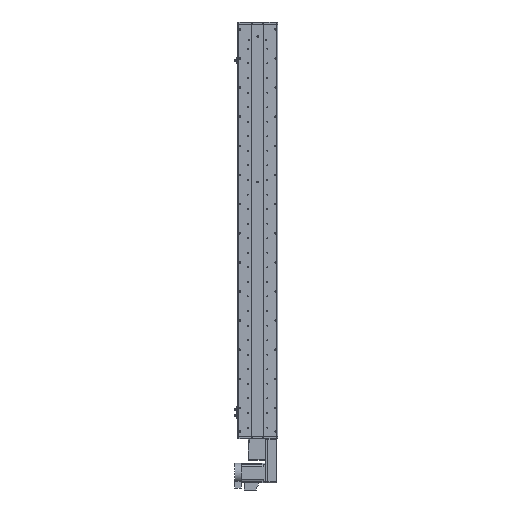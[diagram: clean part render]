
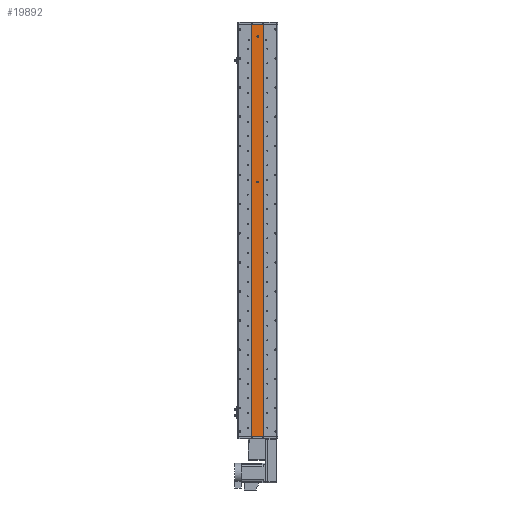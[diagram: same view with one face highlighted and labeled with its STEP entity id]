
A CAD part, front view. The second image highlights one B-rep face of the part: STEP entity #19892.
In plain terms, the highlighted planar face has unit normal (0, -1, 0).
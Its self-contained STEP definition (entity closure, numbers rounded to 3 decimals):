
#1510 = AXIS2_PLACEMENT_3D ( 'NONE', #61843, #30208, #67170 ) ;
#3039 = CARTESIAN_POINT ( 'NONE',  ( 25., 1., 848.5 ) ) ;
#3274 = DIRECTION ( 'NONE',  ( 0., 0., -1. ) ) ;
#3569 = FACE_BOUND ( 'NONE', #11718, .T. ) ;
#4047 = CIRCLE ( 'NONE', #35335, 3. ) ;
#5360 = AXIS2_PLACEMENT_3D ( 'NONE', #59038, #17065, #53994 ) ;
#7191 = CARTESIAN_POINT ( 'NONE',  ( 0., 1., 195.5 ) ) ;
#7417 = VERTEX_POINT ( 'NONE', #36234 ) ;
#9556 = DIRECTION ( 'NONE',  ( 0., -1., 0. ) ) ;
#10465 = LINE ( 'NONE', #34202, #36858 ) ;
#11414 = LINE ( 'NONE', #14119, #37815 ) ;
#11462 = FACE_OUTER_BOUND ( 'NONE', #13116, .T. ) ;
#11521 = EDGE_CURVE ( 'NONE', #59602, #65167, #4047, .T. ) ;
#11718 = EDGE_LOOP ( 'NONE', ( #67447, #32709 ) ) ;
#13116 = EDGE_LOOP ( 'NONE', ( #67627, #50779, #28458, #33200 ) ) ;
#13647 = DIRECTION ( 'NONE',  ( 0., -1., 0. ) ) ;
#13769 = CARTESIAN_POINT ( 'NONE',  ( -25., 1., 848.5 ) ) ;
#14119 = CARTESIAN_POINT ( 'NONE',  ( 25., 1., -848.5 ) ) ;
#17065 = DIRECTION ( 'NONE',  ( 0., 1., 0. ) ) ;
#18898 = EDGE_CURVE ( 'NONE', #26530, #62776, #38415, .T. ) ;
#19421 = DIRECTION ( 'NONE',  ( 1., 0., 0. ) ) ;
#19838 = CIRCLE ( 'NONE', #1510, 3. ) ;
#19892 = ADVANCED_FACE ( 'NONE', ( #31612, #3569, #11462 ), #48448, .F. ) ;
#20179 = CARTESIAN_POINT ( 'NONE',  ( 0., 1., 201.5 ) ) ;
#21888 = EDGE_CURVE ( 'NONE', #53494, #26530, #40160, .T. ) ;
#23085 = CARTESIAN_POINT ( 'NONE',  ( 25., 1., 848.5 ) ) ;
#23222 = CARTESIAN_POINT ( 'NONE',  ( 25., 1., -848.5 ) ) ;
#25392 = EDGE_LOOP ( 'NONE', ( #65724, #51665 ) ) ;
#26169 = VERTEX_POINT ( 'NONE', #45991 ) ;
#26530 = VERTEX_POINT ( 'NONE', #23085 ) ;
#28458 = ORIENTED_EDGE ( 'NONE', *, *, #21888, .F. ) ;
#28756 = CARTESIAN_POINT ( 'NONE',  ( 0., 1., 198.5 ) ) ;
#30208 = DIRECTION ( 'NONE',  ( 0., -1., 0. ) ) ;
#30758 = DIRECTION ( 'NONE',  ( 1., 0., 0. ) ) ;
#31612 = FACE_BOUND ( 'NONE', #25392, .T. ) ;
#32709 = ORIENTED_EDGE ( 'NONE', *, *, #49019, .F. ) ;
#33077 = CARTESIAN_POINT ( 'NONE',  ( 0., 1., 801.5 ) ) ;
#33200 = ORIENTED_EDGE ( 'NONE', *, *, #39397, .T. ) ;
#33639 = VERTEX_POINT ( 'NONE', #33077 ) ;
#34089 = DIRECTION ( 'NONE',  ( 0., 0., -1. ) ) ;
#34202 = CARTESIAN_POINT ( 'NONE',  ( -25., 1., 848.5 ) ) ;
#35335 = AXIS2_PLACEMENT_3D ( 'NONE', #41159, #9556, #46466 ) ;
#36234 = CARTESIAN_POINT ( 'NONE',  ( 0., 1., 795.5 ) ) ;
#36689 = EDGE_CURVE ( 'NONE', #65167, #59602, #39665, .T. ) ;
#36858 = VECTOR ( 'NONE', #39286, 1000. ) ;
#37815 = VECTOR ( 'NONE', #19421, 1000. ) ;
#38415 = LINE ( 'NONE', #3039, #50840 ) ;
#39286 = DIRECTION ( 'NONE',  ( 0., 0., -1. ) ) ;
#39397 = EDGE_CURVE ( 'NONE', #53494, #26169, #10465, .T. ) ;
#39665 = CIRCLE ( 'NONE', #66226, 3. ) ;
#40160 = LINE ( 'NONE', #67714, #54214 ) ;
#41159 = CARTESIAN_POINT ( 'NONE',  ( 0., 1., 198.5 ) ) ;
#44879 = AXIS2_PLACEMENT_3D ( 'NONE', #45238, #13647, #50569 ) ;
#45073 = EDGE_CURVE ( 'NONE', #26169, #62776, #11414, .T. ) ;
#45238 = CARTESIAN_POINT ( 'NONE',  ( 0., 1., 798.5 ) ) ;
#45991 = CARTESIAN_POINT ( 'NONE',  ( -25., 1., -848.5 ) ) ;
#46466 = DIRECTION ( 'NONE',  ( 0., 0., -1. ) ) ;
#48448 = PLANE ( 'NONE',  #5360 ) ;
#49019 = EDGE_CURVE ( 'NONE', #33639, #7417, #19838, .T. ) ;
#50569 = DIRECTION ( 'NONE',  ( 0., 0., -1. ) ) ;
#50779 = ORIENTED_EDGE ( 'NONE', *, *, #18898, .F. ) ;
#50840 = VECTOR ( 'NONE', #3274, 1000. ) ;
#51665 = ORIENTED_EDGE ( 'NONE', *, *, #11521, .F. ) ;
#53494 = VERTEX_POINT ( 'NONE', #13769 ) ;
#53994 = DIRECTION ( 'NONE',  ( 0., 0., 1. ) ) ;
#54214 = VECTOR ( 'NONE', #30758, 1000. ) ;
#58514 = EDGE_CURVE ( 'NONE', #7417, #33639, #62433, .T. ) ;
#59038 = CARTESIAN_POINT ( 'NONE',  ( 25., 1., 848.5 ) ) ;
#59602 = VERTEX_POINT ( 'NONE', #20179 ) ;
#61843 = CARTESIAN_POINT ( 'NONE',  ( 0., 1., 798.5 ) ) ;
#62433 = CIRCLE ( 'NONE', #44879, 3. ) ;
#62776 = VERTEX_POINT ( 'NONE', #23222 ) ;
#65167 = VERTEX_POINT ( 'NONE', #7191 ) ;
#65719 = DIRECTION ( 'NONE',  ( 0., -1., 0. ) ) ;
#65724 = ORIENTED_EDGE ( 'NONE', *, *, #36689, .F. ) ;
#66226 = AXIS2_PLACEMENT_3D ( 'NONE', #28756, #65719, #34089 ) ;
#67170 = DIRECTION ( 'NONE',  ( 0., 0., -1. ) ) ;
#67447 = ORIENTED_EDGE ( 'NONE', *, *, #58514, .F. ) ;
#67627 = ORIENTED_EDGE ( 'NONE', *, *, #45073, .T. ) ;
#67714 = CARTESIAN_POINT ( 'NONE',  ( 25., 1., 848.5 ) ) ;
